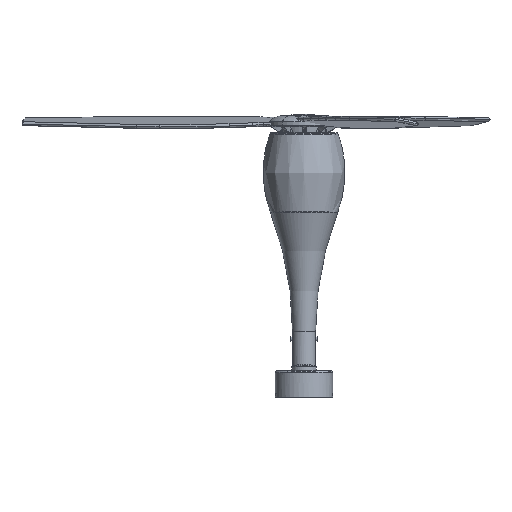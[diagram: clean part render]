
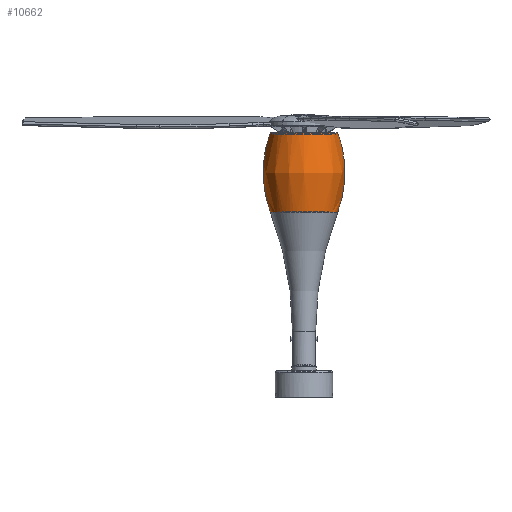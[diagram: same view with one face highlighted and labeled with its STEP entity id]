
A CAD part, left-side view. The second image highlights one B-rep face of the part: STEP entity #10662.
In plain terms, the highlighted free-form (B-spline) face has degree [2, 2] with [3, 5] control points.
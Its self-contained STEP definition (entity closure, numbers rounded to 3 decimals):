
#51=(
BOUNDED_SURFACE()
B_SPLINE_SURFACE(2,2,((#21363,#21364,#21365,#21366,#21367),(#21368,#21369,
#21370,#21371,#21372),(#21373,#21374,#21375,#21376,#21377)),
 .UNSPECIFIED.,.F.,.F.,.F.)
B_SPLINE_SURFACE_WITH_KNOTS((3,3),(3,2,3),(-0.364,0.357),
(-1.571,0.,1.571),.UNSPECIFIED.)
GEOMETRIC_REPRESENTATION_ITEM()
RATIONAL_B_SPLINE_SURFACE(((1.,0.707,1.,0.707,1.),
(0.936,0.662,0.936,0.662,
0.936),(1.,0.707,1.,0.707,1.)))
REPRESENTATION_ITEM('')
SURFACE()
);
#625=CIRCLE('',#11458,76.702);
#626=CIRCLE('',#11459,253.144);
#627=CIRCLE('',#11460,253.144);
#1298=FACE_OUTER_BOUND('',#1991,.T.);
#1991=EDGE_LOOP('',(#8376,#8377,#8378,#8379));
#2710=B_SPLINE_CURVE_WITH_KNOTS('',3,(#20227,#20228,#20229,#20230,#20231,
#20232,#20233,#20234,#20235,#20236,#20237),.UNSPECIFIED.,.F.,.F.,(4,1,1,
1,1,1,1,1,4),(0.,0.125,0.25,0.375,0.5,0.625,0.75,0.875,1.),
 .UNSPECIFIED.);
#4629=VERTEX_POINT('',#20105);
#4630=VERTEX_POINT('',#20106);
#4643=VERTEX_POINT('',#20895);
#4644=VERTEX_POINT('',#21119);
#5942=EDGE_CURVE('',#4630,#4629,#2710,.T.);
#5967=EDGE_CURVE('',#4643,#4644,#625,.T.);
#5968=EDGE_CURVE('',#4629,#4643,#626,.T.);
#5969=EDGE_CURVE('',#4644,#4630,#627,.T.);
#8376=ORIENTED_EDGE('',*,*,#5967,.T.);
#8377=ORIENTED_EDGE('',*,*,#5969,.T.);
#8378=ORIENTED_EDGE('',*,*,#5942,.T.);
#8379=ORIENTED_EDGE('',*,*,#5968,.T.);
#10662=ADVANCED_FACE('',(#1298),#51,.F.);
#11458=AXIS2_PLACEMENT_3D('',#21345,#13079,#13080);
#11459=AXIS2_PLACEMENT_3D('',#21361,#13081,#13082);
#11460=AXIS2_PLACEMENT_3D('',#21362,#13083,#13084);
#13079=DIRECTION('center_axis',(0.,0.,
-1.));
#13080=DIRECTION('ref_axis',(1.,0.,0.));
#13081=DIRECTION('center_axis',(-1.,0.,0.));
#13082=DIRECTION('ref_axis',(0.,-1.,0.));
#13083=DIRECTION('center_axis',(-1.,0.,0.));
#13084=DIRECTION('ref_axis',(0.,1.,0.));
#20105=CARTESIAN_POINT('',(0.,-76.14,418.901));
#20106=CARTESIAN_POINT('',(0.,76.14,418.901));
#20227=CARTESIAN_POINT('Ctrl Pts',(0.,76.14,418.901));
#20228=CARTESIAN_POINT('Ctrl Pts',(-10.007,76.24,418.901));
#20229=CARTESIAN_POINT('Ctrl Pts',(-29.877,72.129,418.901));
#20230=CARTESIAN_POINT('Ctrl Pts',(-55.246,55.253,418.901));
#20231=CARTESIAN_POINT('Ctrl Pts',(-72.174,29.893,418.901));
#20232=CARTESIAN_POINT('Ctrl Pts',(-78.123,0.,
418.901));
#20233=CARTESIAN_POINT('Ctrl Pts',(-72.174,-29.893,418.901));
#20234=CARTESIAN_POINT('Ctrl Pts',(-55.246,-55.253,418.901));
#20235=CARTESIAN_POINT('Ctrl Pts',(-29.877,-72.129,
418.901));
#20236=CARTESIAN_POINT('Ctrl Pts',(-10.007,-76.24,
418.901));
#20237=CARTESIAN_POINT('Ctrl Pts',(0.,-76.14,
418.901));
#20895=CARTESIAN_POINT('',(0.,-76.702,597.471));
#21119=CARTESIAN_POINT('',(0.,76.702,597.471));
#21345=CARTESIAN_POINT('Origin',(0.,0.,
597.471));
#21361=CARTESIAN_POINT('Origin',(0.,160.454,
508.931));
#21362=CARTESIAN_POINT('Origin',(0.,-160.454,508.931));
#21363=CARTESIAN_POINT('Ctrl Pts',(0.,76.137,
418.892));
#21364=CARTESIAN_POINT('Ctrl Pts',(-76.137,76.137,418.892));
#21365=CARTESIAN_POINT('Ctrl Pts',(-76.137,0.,
418.892));
#21366=CARTESIAN_POINT('Ctrl Pts',(-76.137,-76.137,
418.892));
#21367=CARTESIAN_POINT('Ctrl Pts',(0.,-76.137,
418.892));
#21368=CARTESIAN_POINT('Ctrl Pts',(0.,110.077,
508.075));
#21369=CARTESIAN_POINT('Ctrl Pts',(-110.077,110.077,508.075));
#21370=CARTESIAN_POINT('Ctrl Pts',(-110.077,0.,
508.075));
#21371=CARTESIAN_POINT('Ctrl Pts',(-110.077,-110.077,508.075));
#21372=CARTESIAN_POINT('Ctrl Pts',(0.,-110.077,
508.075));
#21373=CARTESIAN_POINT('Ctrl Pts',(0.,76.702,
597.471));
#21374=CARTESIAN_POINT('Ctrl Pts',(-76.702,76.702,597.471));
#21375=CARTESIAN_POINT('Ctrl Pts',(-76.702,0.,
597.471));
#21376=CARTESIAN_POINT('Ctrl Pts',(-76.702,-76.702,597.471));
#21377=CARTESIAN_POINT('Ctrl Pts',(0.,-76.702,
597.471));
